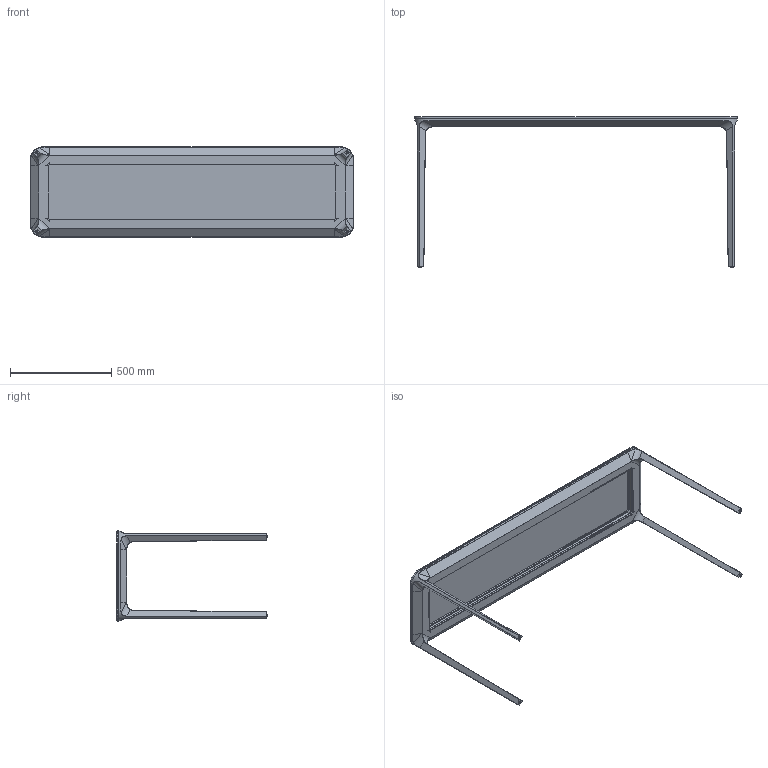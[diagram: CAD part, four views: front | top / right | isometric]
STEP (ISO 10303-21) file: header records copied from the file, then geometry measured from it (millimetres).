
FILE_DESCRIPTION(/* description */ (''),/* implementation_level */ '2;1');
FILE_NAME(/* name */ 'C:\AutodeskVault\AreaLavoro\Progetti\SoVeT Italia\4. Complementi_Accessorizes\Slim Console\Slim 8 Console H74\Web file\Slim 8 Console H74 Web\P5174.stp',/* time_stamp */ '2015-01-20T08:48:39+01:00',/* author */ ('gianluca'),/* organization */ (''),/* preprocessor_version */ 'ST-DEVELOPER v15.2',/* originating_system */ 'Autodesk Inventor 2014',/* authorisation */ '');
FILE_SCHEMA (('AUTOMOTIVE_DESIGN { 1 0 10303 214 3 1 1 }'));
Length unit declared in the file: centimetre
Products named in the file (1): P5174 Contorno semplificato
Bounding box: 1596 x 743.05 x 446 mm (x, y, z)
Volume: 17551521.5 mm3; surface area: 2731749.1 mm2
Topology: 2 solids, 2 shells, 332 faces, 872 edges, 544 vertices
Faces by surface type: plane 172, cylinder 112, bspline 32, cone 8, sphere 4, torus 4
Full cylindrical faces by diameter (mm): 12 x4
Entity records: 12838 total; most frequent: CARTESIAN_POINT 4443, ORIENTED_EDGE 1736, DIRECTION 1682, EDGE_CURVE 860, AXIS2_PLACEMENT_3D 569, LINE 544, VECTOR 544, VERTEX_POINT 540
